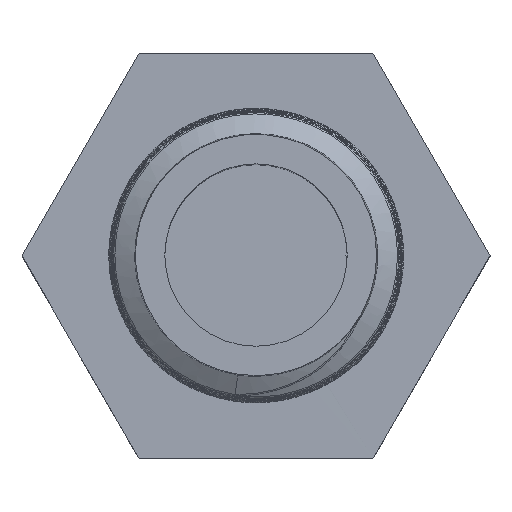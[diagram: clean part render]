
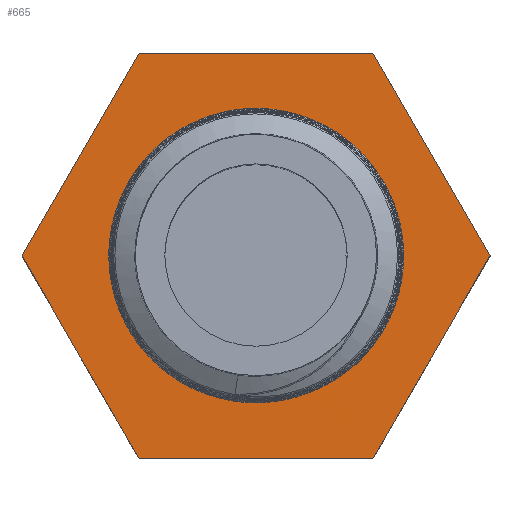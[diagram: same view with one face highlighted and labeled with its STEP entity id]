
A CAD part, front view. The second image highlights one B-rep face of the part: STEP entity #665.
In plain terms, the highlighted planar face has unit normal (0, -1, 0.004).
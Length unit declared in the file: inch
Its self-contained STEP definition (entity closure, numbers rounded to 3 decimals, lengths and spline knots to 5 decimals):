
#139=CIRCLE('',#697,0.3425);
#149=B_SPLINE_CURVE_WITH_KNOTS('',3,(#810,#811,#812,#813,#814,#815,#816,
#817,#818,#819,#820,#821,#822,#823,#824,#825,#826,#827),.UNSPECIFIED.,.F.,
 .U.,(4,2,2,2,2,2,2,2,4),(0.00012,0.19896,0.35784,
0.58081,0.79284,1.06087,1.32913,1.46025,
1.58942),.UNSPECIFIED.);
#150=B_SPLINE_CURVE_WITH_KNOTS('',3,(#830,#831,#832,#833,#834,#835,#836,
#837,#838,#839),.UNSPECIFIED.,.F.,.U.,(4,2,2,2,4),(0.00534,0.12601,
0.25417,0.36838,0.47405),.UNSPECIFIED.);
#151=B_SPLINE_CURVE_WITH_KNOTS('',3,(#841,#842,#843,#844),.UNSPECIFIED.,
 .F.,.U.,(4,4),(0.,0.00169),.UNSPECIFIED.);
#152=B_SPLINE_CURVE_WITH_KNOTS('',3,(#846,#847,#848,#849,#850,#851,#852,
#853,#854,#855,#856,#857,#858,#859,#860,#861,#862,#863),.UNSPECIFIED.,.F.,
 .U.,(4,2,2,2,2,2,2,2,4),(0.00034,0.26105,0.52526,
0.8957,1.27811,1.60674,1.86658,2.03586,
2.20672),.UNSPECIFIED.);
#153=B_SPLINE_CURVE_WITH_KNOTS('',3,(#865,#866,#867,#868),.UNSPECIFIED.,
 .F.,.U.,(4,4),(0.,0.00007),.UNSPECIFIED.);
#195=VERTEX_POINT('',#799);
#196=VERTEX_POINT('',#800);
#197=VERTEX_POINT('',#802);
#198=VERTEX_POINT('',#804);
#199=VERTEX_POINT('',#806);
#200=VERTEX_POINT('',#808);
#201=VERTEX_POINT('',#828);
#202=VERTEX_POINT('',#829);
#203=VERTEX_POINT('',#840);
#204=VERTEX_POINT('',#845);
#205=VERTEX_POINT('',#864);
#206=VERTEX_POINT('',#869);
#264=VECTOR('',#726,1.);
#265=VECTOR('',#727,1.);
#266=VECTOR('',#728,1.);
#267=VECTOR('',#729,1.);
#268=VECTOR('',#730,1.);
#269=VECTOR('',#731,1.);
#289=LINE('',#798,#264);
#290=LINE('',#801,#265);
#291=LINE('',#803,#266);
#292=LINE('',#805,#267);
#293=LINE('',#807,#268);
#294=LINE('',#809,#269);
#314=EDGE_CURVE('',#195,#196,#289,.T.);
#315=EDGE_CURVE('',#197,#195,#290,.T.);
#316=EDGE_CURVE('',#198,#197,#291,.T.);
#317=EDGE_CURVE('',#199,#198,#292,.T.);
#318=EDGE_CURVE('',#200,#199,#293,.T.);
#319=EDGE_CURVE('',#196,#200,#294,.T.);
#320=EDGE_CURVE('',#201,#202,#149,.T.);
#321=EDGE_CURVE('',#203,#201,#150,.T.);
#322=EDGE_CURVE('',#203,#204,#151,.T.);
#323=EDGE_CURVE('',#205,#204,#152,.T.);
#324=EDGE_CURVE('',#205,#206,#153,.T.);
#325=EDGE_CURVE('',#202,#206,#139,.T.);
#407=ORIENTED_EDGE('',*,*,#314,.F.);
#408=ORIENTED_EDGE('',*,*,#315,.F.);
#409=ORIENTED_EDGE('',*,*,#316,.F.);
#410=ORIENTED_EDGE('',*,*,#317,.F.);
#411=ORIENTED_EDGE('',*,*,#318,.F.);
#412=ORIENTED_EDGE('',*,*,#319,.F.);
#413=ORIENTED_EDGE('',*,*,#320,.F.);
#414=ORIENTED_EDGE('',*,*,#321,.F.);
#415=ORIENTED_EDGE('',*,*,#322,.T.);
#416=ORIENTED_EDGE('',*,*,#323,.F.);
#417=ORIENTED_EDGE('',*,*,#324,.T.);
#418=ORIENTED_EDGE('',*,*,#325,.F.);
#593=EDGE_LOOP('',(#407,#408,#409,#410,#411,#412));
#594=EDGE_LOOP('',(#413,#414,#415,#416,#417,#418));
#629=FACE_BOUND('',#593,.T.);
#630=FACE_BOUND('',#594,.T.);
#665=ADVANCED_FACE('',(#629,#630),#5972,.F.);
#696=AXIS2_PLACEMENT_3D('',#797,#725,$);
#697=AXIS2_PLACEMENT_3D('',#870,#732,#733);
#725=DIRECTION('',(0.,1.,-0.004));
#726=DIRECTION('',(1.,0.,0.));
#727=DIRECTION('',(0.5,0.003,0.866));
#728=DIRECTION('',(-0.5,0.003,0.866));
#729=DIRECTION('',(-1.,0.,0.));
#730=DIRECTION('',(-0.5,-0.003,-0.866));
#731=DIRECTION('',(0.5,-0.003,-0.866));
#732=DIRECTION('',(0.,-1.,0.004));
#733=DIRECTION('',(-0.258,0.001,0.225));
#797=CARTESIAN_POINT('',(3.95491,1.76862,-3.30018));
#798=CARTESIAN_POINT('',(3.63995,1.76854,-3.32201));
#799=CARTESIAN_POINT('',(3.63995,1.76854,-3.32201));
#800=CARTESIAN_POINT('',(4.26987,1.76854,-3.32201));
#801=CARTESIAN_POINT('',(3.32499,1.76652,-3.86753));
#802=CARTESIAN_POINT('',(3.32499,1.76652,-3.86753));
#803=CARTESIAN_POINT('',(3.63995,1.76451,-4.41305));
#804=CARTESIAN_POINT('',(3.63995,1.76451,-4.41305));
#805=CARTESIAN_POINT('',(4.26987,1.76451,-4.41305));
#806=CARTESIAN_POINT('',(4.26987,1.76451,-4.41305));
#807=CARTESIAN_POINT('',(4.58483,1.76652,-3.86753));
#808=CARTESIAN_POINT('',(4.58483,1.76652,-3.86753));
#809=CARTESIAN_POINT('',(4.26987,1.76854,-3.32201));
#810=CARTESIAN_POINT('',(4.34365,1.76628,-3.93404));
#811=CARTESIAN_POINT('',(4.34677,1.76637,-3.90812));
#812=CARTESIAN_POINT('',(4.34867,1.76651,-3.8719));
#813=CARTESIAN_POINT('',(4.33686,1.76679,-3.79473));
#814=CARTESIAN_POINT('',(4.32695,1.76692,-3.76116));
#815=CARTESIAN_POINT('',(4.29297,1.7672,-3.68507));
#816=CARTESIAN_POINT('',(4.26525,1.76735,-3.64472));
#817=CARTESIAN_POINT('',(4.19398,1.7676,-3.57686));
#818=CARTESIAN_POINT('',(4.15284,1.7677,-3.55044));
#819=CARTESIAN_POINT('',(4.0519,1.76784,-3.51048));
#820=CARTESIAN_POINT('',(4.00267,1.76786,-3.50711));
#821=CARTESIAN_POINT('',(3.93843,1.76785,-3.5079));
#822=CARTESIAN_POINT('',(3.889,1.76784,-3.51248));
#823=CARTESIAN_POINT('',(3.80675,1.7677,-3.54816));
#824=CARTESIAN_POINT('',(3.78122,1.76765,-3.56329));
#825=CARTESIAN_POINT('',(3.73505,1.76752,-3.59909));
#826=CARTESIAN_POINT('',(3.71432,1.76744,-3.6197));
#827=CARTESIAN_POINT('',(3.69658,1.76735,-3.64266));
#828=CARTESIAN_POINT('',(4.34375,1.76627,-3.93405));
#829=CARTESIAN_POINT('',(3.69658,1.76735,-3.64266));
#830=CARTESIAN_POINT('',(4.14654,1.76525,-4.21268));
#831=CARTESIAN_POINT('',(4.1616,1.76528,-4.20524));
#832=CARTESIAN_POINT('',(4.18575,1.76533,-4.19163));
#833=CARTESIAN_POINT('',(4.24021,1.76549,-4.14674));
#834=CARTESIAN_POINT('',(4.2646,1.76559,-4.11944));
#835=CARTESIAN_POINT('',(4.30251,1.7658,-4.06264));
#836=CARTESIAN_POINT('',(4.31704,1.76591,-4.03353));
#837=CARTESIAN_POINT('',(4.33725,1.76613,-3.97508));
#838=CARTESIAN_POINT('',(4.34174,1.76621,-3.95108));
#839=CARTESIAN_POINT('',(4.34376,1.76628,-3.93405));
#840=CARTESIAN_POINT('',(4.14654,1.76525,-4.21268));
#841=CARTESIAN_POINT('',(4.14654,1.76525,-4.21268));
#842=CARTESIAN_POINT('',(4.14592,1.76526,-4.21302));
#843=CARTESIAN_POINT('',(4.14531,1.76528,-4.21335));
#844=CARTESIAN_POINT('',(4.1447,1.76529,-4.21368));
#845=CARTESIAN_POINT('',(4.14469,1.76531,-4.21367));
#846=CARTESIAN_POINT('',(3.67898,1.76727,-3.66464));
#847=CARTESIAN_POINT('',(3.6572,1.76718,-3.69103));
#848=CARTESIAN_POINT('',(3.63941,1.76707,-3.72058));
#849=CARTESIAN_POINT('',(3.61294,1.76683,-3.78456));
#850=CARTESIAN_POINT('',(3.60449,1.7667,-3.81878));
#851=CARTESIAN_POINT('',(3.59659,1.7664,-3.90213));
#852=CARTESIAN_POINT('',(3.6024,1.76622,-3.94846));
#853=CARTESIAN_POINT('',(3.6275,1.76591,-4.03219));
#854=CARTESIAN_POINT('',(3.64892,1.76576,-4.07493));
#855=CARTESIAN_POINT('',(3.70713,1.76549,-4.14711));
#856=CARTESIAN_POINT('',(3.74329,1.76537,-4.18002));
#857=CARTESIAN_POINT('',(3.82677,1.7652,-4.22614));
#858=CARTESIAN_POINT('',(3.87378,1.76513,-4.24403));
#859=CARTESIAN_POINT('',(3.96592,1.76509,-4.25477));
#860=CARTESIAN_POINT('',(4.00277,1.7651,-4.25383));
#861=CARTESIAN_POINT('',(4.07563,1.76514,-4.24145));
#862=CARTESIAN_POINT('',(4.11132,1.76518,-4.22995));
#863=CARTESIAN_POINT('',(4.14472,1.76524,-4.21373));
#864=CARTESIAN_POINT('',(3.67898,1.76727,-3.66464));
#865=CARTESIAN_POINT('',(3.67898,1.76727,-3.66464));
#866=CARTESIAN_POINT('',(3.67901,1.76727,-3.6646));
#867=CARTESIAN_POINT('',(3.67903,1.76727,-3.66457));
#868=CARTESIAN_POINT('',(3.67906,1.76728,-3.66454));
#869=CARTESIAN_POINT('',(3.67906,1.76728,-3.66454));
#870=CARTESIAN_POINT('',(3.95491,1.76652,-3.86753));
#5972=PLANE('',#696);
